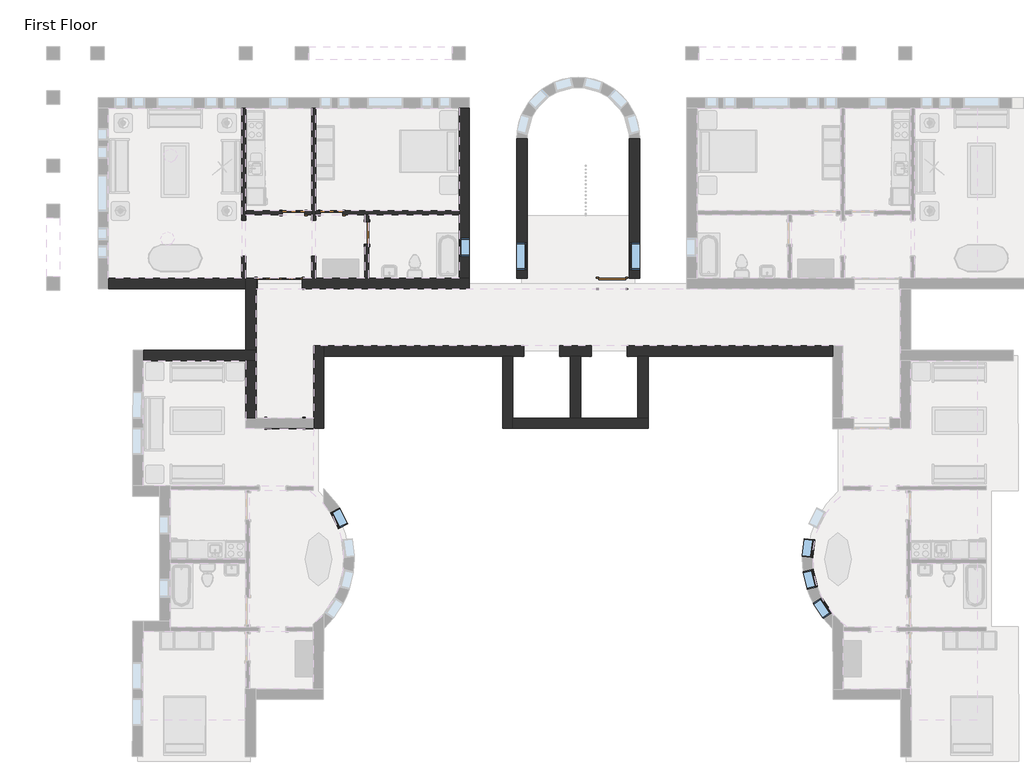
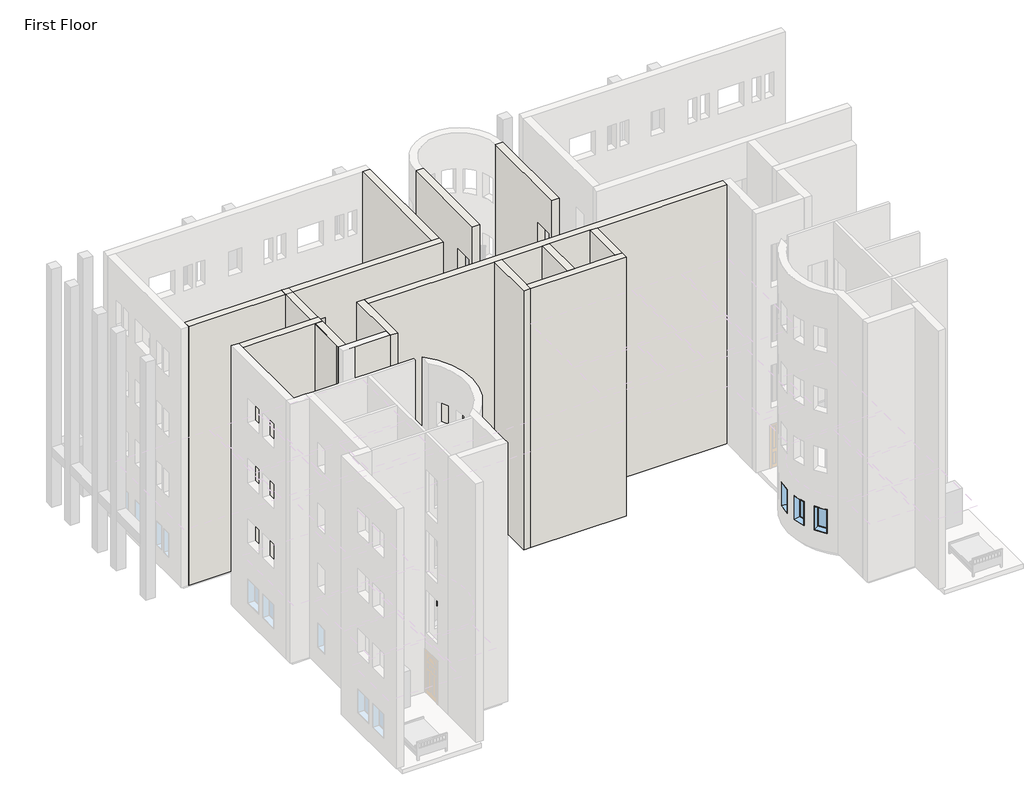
# One storey, part 11 of 23: 18 walls, 7 windows, 6 doors.
"""IFC4 building model written with IfcOpenShell, lengths in millimetres."""

from ifc_helpers import new_model, si_unit, frame, origin, origin_with_axes, place, context, project, spatial, polyline, outline, extrude, faceted_brep, transform, mapped, element, save
from components import m_bifold_4_panel_1220_x_2134mm_46e1cad3, m_bifold_4_panel_1525_x_2134mm_ac598c8b, m_single_decorative_2_0762_x_2134mm_0d0af7cb, m_single_decorative_2_0762_x_2134mm_2fe67c8e, m_single_flush_0762_x_2134mm_a28375c7, m_single_flush_0915_x_2134mm_1eac8bb1, m_fixed_0610_x_1220mm_2c28ef1d, m_fixed_0610_x_1220mm_1ea27827, m_fixed_0915_x_1220mm_bde29121

model = new_model("IFC4")

# Units and contexts
model_context = context("Model", 3, world=origin())
ifc_project = project(units=[si_unit("LENGTHUNIT", "METRE", prefix="MILLI")], contexts=[model_context])

# Site, building, storey
site = spatial("IfcSite", under=ifc_project)
building = spatial("IfcBuilding", under=site)
storey = spatial("IfcBuildingStorey", under=building, Name="First Floor", Elevation=0.0)

# Doors
placement = place(None, origin())
m_bifold_4_panel_1220_x_2134mm_shape = m_bifold_4_panel_1220_x_2134mm_46e1cad3(model_context)
element("IfcDoor", 1, ObjectType="M_Bifold-4 Panel : 1220 x 2134mm", at=placement, inside=storey, context=model_context, shape_type="MappedRepresentation", body=[
    mapped(m_bifold_4_panel_1220_x_2134mm_shape, transform((-28863.3459343, -8240.6820888, 0.0), x_axis=(-0.9999989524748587, 0.0014474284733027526, 0.0), y_axis=(-0.0014474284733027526, -0.9999989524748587, 0.0), z_axis=(0.0, 0.0, 1.0))),
])
m_bifold_4_panel_1525_x_2134mm_shape = m_bifold_4_panel_1525_x_2134mm_ac598c8b(model_context)
element("IfcDoor", 2, ObjectType="M_Bifold-4 Panel : 1525 x 2134mm", at=placement, inside=storey, context=model_context, shape_type="MappedRepresentation", body=[
    mapped(m_bifold_4_panel_1525_x_2134mm_shape, transform((-29038.0916203, -3514.8811614, 0.0), x_axis=(-1.0, 0.0, 0.0), y_axis=(0.0, -1.0, 0.0), z_axis=(0.0, 0.0, 1.0))),
])
m_single_decorative_2_0762_x_2134mm_shape = m_single_decorative_2_0762_x_2134mm_0d0af7cb(model_context)
element("IfcDoor", 3, ObjectType="M_Single-Decorative 2 : 0762 x 2134mm", at=placement, inside=storey, context=model_context, shape_type="MappedRepresentation", body=[
    mapped(m_single_decorative_2_0762_x_2134mm_shape, transform((-27285.0916203, -1138.1311614, 0.0), x_axis=(-1.0, 0.0, 0.0), y_axis=(0.0, -1.0, 0.0), z_axis=(0.0, 0.0, 1.0))),
])
m_single_decorative_2_0762_x_2134mm_2_shape = m_single_decorative_2_0762_x_2134mm_2fe67c8e(model_context)
element("IfcDoor", 4, ObjectType="M_Single-Decorative 2 : 0762 x 2134mm", at=placement, inside=storey, context=model_context, shape_type="MappedRepresentation", body=[
    mapped(m_single_decorative_2_0762_x_2134mm_2_shape, transform((-28571.8416203, -1138.1311614, 0.0), x_axis=(1.0, 0.0, 0.0), y_axis=(0.0, 1.0, 0.0), z_axis=(0.0, 0.0, 1.0))),
])
m_single_flush_0762_x_2134mm_shape = m_single_flush_0762_x_2134mm_a28375c7(model_context)
element("IfcDoor", 5, ObjectType="M_Single-Flush : 0762 x 2134mm", at=placement, inside=storey, context=model_context, shape_type="MappedRepresentation", body=[
    mapped(m_single_flush_0762_x_2134mm_shape, transform((-26094.5916203, -1815.8811614, 0.0), x_axis=(0.0, 1.0, 0.0), y_axis=(-1.0, 0.0, 0.0), z_axis=(0.0, 0.0, 1.0))),
])
m_single_flush_0915_x_2134mm_shape = m_single_flush_0915_x_2134mm_1eac8bb1(model_context)
element("IfcDoor", 6, ObjectType="M_Single-Flush : 0915 x 2134mm", at=placement, inside=storey, context=model_context, shape_type="MappedRepresentation", body=[
    mapped(m_single_flush_0915_x_2134mm_shape, transform((-17814.0916203, -3514.8811614, 0.0), x_axis=(1.0, 0.0, 0.0), y_axis=(0.0, 1.0, 0.0), z_axis=(0.0, 0.0, 1.0))),
])

# Walls
element("IfcWall", 7, ObjectType="Exterior - Brick on Mtl. Stud", at=placement, inside=storey, context=model_context, shape_type="Brep", body=[
    faceted_brep([(-27895.0916203, -5625.8811614, 0.0), (-27895.0916203, -8064.2811614, 0.0), (-27895.0916203, -8067.0833858, 0.0), (-27895.0916203, -8414.2811614, 0.0), (-27895.0916203, -8414.2811614, 13107.0), (-27895.0916203, -8067.0833858, 13107.0), (-27895.0916203, -8064.2811614, 13107.0), (-27895.0916203, -5625.8811614, 13107.0), (-27545.0916203, -5625.8811614, 0.0), (-27545.0916203, -5625.8811614, 13107.0), (-27545.0916203, -5975.8811614, 13107.0), (-27545.0916203, -8414.2811614, 13107.0), (-27545.0916203, -8414.2811614, 0.0), (-27545.0916203, -5975.8811614, 0.0), (-27545.5958262, -8414.2811614, 0.0), (-27545.5958262, -8414.2811614, 13107.0)], [[[0, 1, 2, 3, 4, 5, 6, 7]], [[8, 9, 10, 11, 12, 13]], [[3, 2, 1, 0, 8, 13, 12, 14]], [[7, 6, 5, 4, 15, 11, 10, 9]], [[4, 3, 14, 12, 11, 15]], [[0, 7, 9, 8]]]),
])
element("IfcWall", 8, ObjectType="Exterior - Brick on Mtl. Stud", at=placement, inside=storey, context=model_context, shape_type="Brep", body=[
    faceted_brep([(-29831.0916203, -8064.2811614, 0.0), (-29831.0916203, -3689.8811614, 0.0), (-29831.0916203, -3524.8811614, 0.0), (-29831.0916203, -3339.8811614, 0.0), (-29831.0916203, -3339.8811614, 13107.0), (-29831.0916203, -3689.8811614, 13107.0), (-29831.0916203, -8064.2811614, 13107.0), (-30181.0916203, -8064.2811614, 0.0), (-30181.0916203, -8064.2811614, 13107.0), (-30181.0916203, -3339.8811614, 13107.0), (-30181.0916203, -3339.8811614, 0.0), (-30181.0916203, -3524.8811614, 0.0), (-29996.0916203, -8064.2811614, 0.0), (-29996.0916203, -3339.8811614, 0.0), (-29996.0916203, -3524.8811614, 0.0)], [[[0, 1, 2, 3, 4, 5, 6]], [[7, 8, 9, 10, 11]], [[6, 5, 4, 9, 8]], [[0, 6, 8, 7, 12]], [[4, 3, 13, 10, 9]], [[12, 7, 11, 14]], [[3, 2, 14, 13]], [[14, 11, 10, 13]], [[2, 1, 0, 12, 14]]]),
])
element("IfcWall", 9, ObjectType="Exterior - Brick on Mtl. Stud", at=placement, inside=storey, context=model_context, shape_type="Brep", body=[
    faceted_brep([(-18518.0916203, -5625.8811614, 0.0), (-19584.0916203, -5625.8811614, 0.0), (-19584.0916203, -5625.8811614, 2134.0), (-20804.0916203, -5625.8811614, 2134.0), (-20804.0916203, -5625.8811614, 0.0), (-27545.0916203, -5625.8811614, 0.0), (-27545.0916203, -5625.8811614, 13107.0), (-10369.0916203, -5625.8811614, 13107.0), (-10369.0916203, -5625.8811614, 0.0), (-17298.0916203, -5625.8811614, 0.0), (-17298.0916203, -5625.8811614, 2134.0), (-18518.0916203, -5625.8811614, 2134.0), (-20804.0916203, -5625.8811614, 11278.0), (-20804.0916203, -5625.8811614, 9144.0), (-19584.0916203, -5625.8811614, 9144.0), (-19584.0916203, -5625.8811614, 11278.0), (-17298.0916203, -5625.8811614, 11278.0), (-18518.0916203, -5625.8811614, 11278.0), (-18518.0916203, -5625.8811614, 9144.0), (-17298.0916203, -5625.8811614, 9144.0), (-20804.0916203, -5625.8811614, 5182.0), (-20804.0916203, -5625.8811614, 3048.0), (-19584.0916203, -5625.8811614, 3048.0), (-19584.0916203, -5625.8811614, 5182.0), (-17298.0916203, -5625.8811614, 5182.0), (-18518.0916203, -5625.8811614, 5182.0), (-18518.0916203, -5625.8811614, 3048.0), (-17298.0916203, -5625.8811614, 3048.0), (-20804.0916203, -5625.8811614, 8230.0), (-20804.0916203, -5625.8811614, 6096.0), (-19584.0916203, -5625.8811614, 6096.0), (-19584.0916203, -5625.8811614, 8230.0), (-17298.0916203, -5625.8811614, 8230.0), (-18518.0916203, -5625.8811614, 8230.0), (-18518.0916203, -5625.8811614, 6096.0), (-17298.0916203, -5625.8811614, 6096.0), (-19584.0916203, -5975.8811614, 2134.0), (-19584.0916203, -5975.8811614, 0.0), (-19226.0916203, -5975.8811614, 0.0), (-18876.0916203, -5975.8811614, 0.0), (-18518.0916203, -5975.8811614, 0.0), (-18518.0916203, -5975.8811614, 2134.0), (-17298.0916203, -5975.8811614, 2134.0), (-17298.0916203, -5975.8811614, 0.0), (-16940.0916203, -5975.8811614, 0.0), (-16590.0916203, -5975.8811614, 0.0), (-10369.0916203, -5975.8811614, 0.0), (-10369.0916203, -5975.8811614, 13107.0), (-16590.0916203, -5975.8811614, 13107.0), (-16940.0916203, -5975.8811614, 13107.0), (-18876.0916203, -5975.8811614, 13107.0), (-19226.0916203, -5975.8811614, 13107.0), (-21162.0916203, -5975.8811614, 13107.0), (-21512.0916203, -5975.8811614, 13107.0), (-27545.0916203, -5975.8811614, 13107.0), (-27545.0916203, -5975.8811614, 0.0), (-21512.0916203, -5975.8811614, 0.0), (-21162.0916203, -5975.8811614, 0.0), (-20804.0916203, -5975.8811614, 0.0), (-20804.0916203, -5975.8811614, 2134.0), (-20804.0916203, -5975.8811614, 11278.0), (-19584.0916203, -5975.8811614, 11278.0), (-19584.0916203, -5975.8811614, 9144.0), (-20804.0916203, -5975.8811614, 9144.0), (-17298.0916203, -5975.8811614, 11278.0), (-17298.0916203, -5975.8811614, 9144.0), (-18518.0916203, -5975.8811614, 9144.0), (-18518.0916203, -5975.8811614, 11278.0), (-20804.0916203, -5975.8811614, 5182.0), (-19584.0916203, -5975.8811614, 5182.0), (-19584.0916203, -5975.8811614, 3048.0), (-20804.0916203, -5975.8811614, 3048.0), (-17298.0916203, -5975.8811614, 5182.0), (-17298.0916203, -5975.8811614, 3048.0), (-18518.0916203, -5975.8811614, 3048.0), (-18518.0916203, -5975.8811614, 5182.0), (-20804.0916203, -5975.8811614, 8230.0), (-19584.0916203, -5975.8811614, 8230.0), (-19584.0916203, -5975.8811614, 6096.0), (-20804.0916203, -5975.8811614, 6096.0), (-17298.0916203, -5975.8811614, 8230.0), (-17298.0916203, -5975.8811614, 6096.0), (-18518.0916203, -5975.8811614, 6096.0), (-18518.0916203, -5975.8811614, 8230.0)], [[[0, 1, 2, 3, 4, 5, 6, 7, 8, 9, 10, 11], [12, 13, 14, 15], [16, 17, 18, 19], [20, 21, 22, 23], [24, 25, 26, 27], [28, 29, 30, 31], [32, 33, 34, 35]], [[36, 37, 38, 39, 40, 41, 42, 43, 44, 45, 46, 47, 48, 49, 50, 51, 52, 53, 54, 55, 56, 57, 58, 59], [60, 61, 62, 63], [64, 65, 66, 67], [68, 69, 70, 71], [72, 73, 74, 75], [76, 77, 78, 79], [80, 81, 82, 83]], [[9, 8, 46, 45, 44, 43]], [[58, 57, 56, 55, 5, 4]], [[40, 39, 38, 37, 1, 0]], [[7, 6, 54, 53, 52, 51, 50, 49, 48, 47]], [[6, 5, 55, 54]], [[8, 7, 47, 46]], [[43, 42, 10, 9]], [[41, 40, 0, 11]], [[42, 41, 11, 10]], [[4, 3, 59, 58]], [[2, 1, 37, 36]], [[3, 2, 36, 59]], [[13, 12, 60, 63]], [[14, 13, 63, 62]], [[15, 14, 62, 61]], [[12, 15, 61, 60]], [[65, 64, 16, 19]], [[66, 65, 19, 18]], [[67, 66, 18, 17]], [[64, 67, 17, 16]], [[21, 20, 68, 71]], [[22, 21, 71, 70]], [[23, 22, 70, 69]], [[20, 23, 69, 68]], [[73, 72, 24, 27]], [[74, 73, 27, 26]], [[75, 74, 26, 25]], [[72, 75, 25, 24]], [[29, 28, 76, 79]], [[30, 29, 79, 78]], [[31, 30, 78, 77]], [[28, 31, 77, 76]], [[81, 80, 32, 35]], [[82, 81, 35, 34]], [[83, 82, 34, 33]], [[80, 83, 33, 32]]]),
])
element("IfcWall", 10, ObjectType="Exterior - Brick on Mtl. Stud", at=placement, inside=storey, context=model_context, shape_type="SweptSolid", body=[
    extrude(outline(polyline([(1362.1188386, 0.0), (-3339.8811614, 0.0), (-3339.8811614, 13107.0), (1362.1188386, 13107.0), (1362.1188386, 0.0)]), holes=[polyline([(-2142.3811614, 915.0), (-2142.3811614, 2135.0), (-3057.3811614, 2135.0), (-3057.3811614, 915.0), (-2142.3811614, 915.0)]), polyline([(-2142.3811614, 10059.0), (-2142.3811614, 11279.0), (-3057.3811614, 11279.0), (-3057.3811614, 10059.0), (-2142.3811614, 10059.0)]), polyline([(-2142.3811614, 3963.0), (-2142.3811614, 5183.0), (-3057.3811614, 5183.0), (-3057.3811614, 3963.0), (-2142.3811614, 3963.0)]), polyline([(-2142.3811614, 7011.0), (-2142.3811614, 8231.0), (-3057.3811614, 8231.0), (-3057.3811614, 7011.0), (-2142.3811614, 7011.0)])]), frame((-21037.0916203, 0.0, 0.0), z_axis=(1.0, 0.0, 0.0), x_axis=(0.0, 1.0, 0.0)), (0.0, 0.0, 1.0), 350.0),
])
element("IfcWall", 11, ObjectType="Exterior - Brick on Mtl. Stud", at=placement, inside=storey, context=model_context, shape_type="SweptSolid", body=[
    extrude(outline(polyline([(-3339.8811614, 0.0), (-3339.8811614, 13107.0), (1362.1188386, 13107.0), (1362.1188386, 0.0), (-3339.8811614, 0.0)]), holes=[polyline([(-3057.3811614, 915.0), (-2142.3811614, 915.0), (-2142.3811614, 2135.0), (-3057.3811614, 2135.0), (-3057.3811614, 915.0)]), polyline([(-3057.3811614, 10059.0), (-2142.3811614, 10059.0), (-2142.3811614, 11279.0), (-3057.3811614, 11279.0), (-3057.3811614, 10059.0)]), polyline([(-3057.3811614, 3963.0), (-2142.3811614, 3963.0), (-2142.3811614, 5183.0), (-3057.3811614, 5183.0), (-3057.3811614, 3963.0)]), polyline([(-3057.3811614, 7011.0), (-2142.3811614, 7011.0), (-2142.3811614, 8231.0), (-3057.3811614, 8231.0), (-3057.3811614, 7011.0)])]), frame((-17227.0916203, 0.0, 0.0), z_axis=(1.0, 0.0, 0.0), x_axis=(0.0, 1.0, 0.0)), (0.0, 0.0, 1.0), 350.0),
])
element("IfcWall", 12, ObjectType="Exterior - Brick on Mtl. Stud", at=placement, inside=storey, context=model_context, shape_type="Brep", body=[
    faceted_brep([(-21512.0916203, -5975.8811614, 0.0), (-21512.0916203, -8414.2811614, 0.0), (-21512.0916203, -8414.2811614, 13107.0), (-21512.0916203, -5975.8811614, 13107.0), (-21162.0916203, -5975.8811614, 0.0), (-21162.0916203, -5975.8811614, 13107.0), (-21162.0916203, -8064.2811614, 13107.0), (-21162.0916203, -8414.2811614, 13107.0), (-21162.0916203, -8414.2811614, 0.0), (-21162.0916203, -8064.2811614, 0.0)], [[[0, 1, 2, 3]], [[4, 5, 6, 7, 8, 9]], [[1, 0, 4, 9, 8]], [[3, 2, 7, 6, 5]], [[0, 3, 5, 4]], [[2, 1, 8, 7]]]),
])
element("IfcWall", 13, ObjectType="Exterior - Brick on Mtl. Stud", at=placement, inside=storey, context=model_context, shape_type="Brep", body=[
    faceted_brep([(-21162.0916203, -8414.2811614, 0.0), (-16590.0916203, -8414.2811614, 0.0), (-16590.0916203, -8414.2811614, 13107.0), (-21162.0916203, -8414.2811614, 13107.0), (-21162.0916203, -8064.2811614, 0.0), (-21162.0916203, -8064.2811614, 13107.0), (-19226.0916203, -8064.2811614, 13107.0), (-18876.0916203, -8064.2811614, 13107.0), (-16940.0916203, -8064.2811614, 13107.0), (-16590.0916203, -8064.2811614, 13107.0), (-16590.0916203, -8064.2811614, 0.0), (-16940.0916203, -8064.2811614, 0.0), (-18876.0916203, -8064.2811614, 0.0), (-19226.0916203, -8064.2811614, 0.0)], [[[0, 1, 2, 3]], [[4, 5, 6, 7, 8, 9, 10, 11, 12, 13]], [[1, 0, 4, 13, 12, 11, 10]], [[3, 2, 9, 8, 7, 6, 5]], [[0, 3, 5, 4]], [[2, 1, 10, 9]]]),
])
element("IfcWall", 14, ObjectType="Exterior - Brick on Mtl. Stud", at=placement, inside=storey, context=model_context, shape_type="SweptSolid", body=[
    extrude(outline(polyline([(-16590.0916203, -5975.8811614), (-16590.0916203, -8064.2811614), (-16940.0916203, -8064.2811614), (-16940.0916203, -5975.8811614), (-16590.0916203, -5975.8811614)])), origin_with_axes(), (0.0, 0.0, 1.0), 13107.0),
])
element("IfcWall", 15, ObjectType="Exterior - Brick on Mtl. Stud", at=placement, inside=storey, context=model_context, shape_type="SweptSolid", body=[
    extrude(outline(polyline([(-18876.0916203, -5975.8811614), (-18876.0916203, -8064.2811614), (-19226.0916203, -8064.2811614), (-19226.0916203, -5975.8811614), (-18876.0916203, -5975.8811614)])), origin_with_axes(), (0.0, 0.0, 1.0), 13107.0),
])
element("IfcWall", 16, ObjectType="Exterior - Brick on Mtl. Stud", at=placement, inside=storey, context=model_context, shape_type="Brep", body=[
    faceted_brep([(-22628.8416203, -3689.8811614, 13107.0), (-34820.8416203, -3689.8811614, 13107.0), (-34820.8416203, -3689.8811614, 0.0), (-29800.5916203, -3689.8811614, 0.0), (-29800.5916203, -3689.8811614, 2134.0), (-28275.5916203, -3689.8811614, 2134.0), (-28275.5916203, -3689.8811614, 0.0), (-22628.8416203, -3689.8811614, 0.0), (-29800.5916203, -3689.8811614, 9144.0), (-29800.5916203, -3689.8811614, 11278.0), (-28275.5916203, -3689.8811614, 11278.0), (-28275.5916203, -3689.8811614, 9144.0), (-29800.5916203, -3689.8811614, 3048.0), (-29800.5916203, -3689.8811614, 5182.0), (-28275.5916203, -3689.8811614, 5182.0), (-28275.5916203, -3689.8811614, 3048.0), (-29800.5916203, -3689.8811614, 6096.0), (-29800.5916203, -3689.8811614, 8230.0), (-28275.5916203, -3689.8811614, 8230.0), (-28275.5916203, -3689.8811614, 6096.0), (-34820.8416203, -3339.8811614, 13107.0), (-22978.8416203, -3339.8811614, 13107.0), (-22628.8416203, -3339.8811614, 13107.0), (-22628.8416203, -3339.8811614, 0.0), (-22978.8416203, -3339.8811614, 0.0), (-26026.8416203, -3339.8811614, 0.0), (-26162.3416203, -3339.8811614, 0.0), (-27827.3416203, -3339.8811614, 0.0), (-27962.8416203, -3339.8811614, 0.0), (-28275.5916203, -3339.8811614, 0.0), (-28275.5916203, -3339.8811614, 2134.0), (-29800.5916203, -3339.8811614, 2134.0), (-29800.5916203, -3339.8811614, 0.0), (-30181.0916203, -3339.8811614, 0.0), (-30316.5916203, -3339.8811614, 0.0), (-34820.8416203, -3339.8811614, 0.0), (-29800.5916203, -3339.8811614, 9144.0), (-28275.5916203, -3339.8811614, 9144.0), (-28275.5916203, -3339.8811614, 11278.0), (-29800.5916203, -3339.8811614, 11278.0), (-29800.5916203, -3339.8811614, 3048.0), (-28275.5916203, -3339.8811614, 3048.0), (-28275.5916203, -3339.8811614, 5182.0), (-29800.5916203, -3339.8811614, 5182.0), (-29800.5916203, -3339.8811614, 6096.0), (-28275.5916203, -3339.8811614, 6096.0), (-28275.5916203, -3339.8811614, 8230.0), (-29800.5916203, -3339.8811614, 8230.0)], [[[0, 1, 2, 3, 4, 5, 6, 7], [8, 9, 10, 11], [12, 13, 14, 15], [16, 17, 18, 19]], [[20, 21, 22, 23, 24, 25, 26, 27, 28, 29, 30, 31, 32, 33, 34, 35], [36, 37, 38, 39], [40, 41, 42, 43], [44, 45, 46, 47]], [[2, 35, 34, 33, 32, 3]], [[23, 7, 6, 29, 28, 27, 26, 25, 24]], [[1, 0, 22, 21, 20]], [[2, 1, 20, 35]], [[0, 7, 23, 22]], [[31, 4, 3, 32]], [[4, 31, 30, 5]], [[5, 30, 29, 6]], [[9, 8, 36, 39]], [[10, 9, 39, 38]], [[11, 10, 38, 37]], [[8, 11, 37, 36]], [[13, 12, 40, 43]], [[14, 13, 43, 42]], [[15, 14, 42, 41]], [[12, 15, 41, 40]], [[17, 16, 44, 47]], [[18, 17, 47, 46]], [[19, 18, 46, 45]], [[16, 19, 45, 44]]]),
])
element("IfcWall", 17, ObjectType="Exterior - Brick on Mtl. Stud", at=placement, inside=storey, context=model_context, shape_type="Brep", body=[
    faceted_brep([(-22628.8416203, -3339.8811614, 0.0), (-22628.8416203, 2406.1188386, 0.0), (-22628.8416203, 2406.1188386, 13107.0), (-22628.8416203, -3339.8811614, 13107.0), (-22628.8416203, -1989.8811614, 915.0), (-22628.8416203, -2599.8811614, 915.0), (-22628.8416203, -2599.8811614, 2135.0), (-22628.8416203, -1989.8811614, 2135.0), (-22628.8416203, -1989.8811614, 10059.0), (-22628.8416203, -2599.8811614, 10059.0), (-22628.8416203, -2599.8811614, 11279.0), (-22628.8416203, -1989.8811614, 11279.0), (-22628.8416203, -1989.8811614, 3963.0), (-22628.8416203, -2599.8811614, 3963.0), (-22628.8416203, -2599.8811614, 5183.0), (-22628.8416203, -1989.8811614, 5183.0), (-22628.8416203, -1989.8811614, 7011.0), (-22628.8416203, -2599.8811614, 7011.0), (-22628.8416203, -2599.8811614, 8231.0), (-22628.8416203, -1989.8811614, 8231.0), (-22978.8416203, -3339.8811614, 0.0), (-22978.8416203, -3339.8811614, 13107.0), (-22978.8416203, 2406.1188386, 13107.0), (-22978.8416203, 2406.1188386, 0.0), (-22978.8416203, -1070.3811614, 0.0), (-22978.8416203, -1205.8811614, 0.0), (-22978.8416203, -1989.8811614, 915.0), (-22978.8416203, -1989.8811614, 2135.0), (-22978.8416203, -2599.8811614, 2135.0), (-22978.8416203, -2599.8811614, 915.0), (-22978.8416203, -1989.8811614, 10059.0), (-22978.8416203, -1989.8811614, 11279.0), (-22978.8416203, -2599.8811614, 11279.0), (-22978.8416203, -2599.8811614, 10059.0), (-22978.8416203, -1989.8811614, 3963.0), (-22978.8416203, -1989.8811614, 5183.0), (-22978.8416203, -2599.8811614, 5183.0), (-22978.8416203, -2599.8811614, 3963.0), (-22978.8416203, -1989.8811614, 7011.0), (-22978.8416203, -1989.8811614, 8231.0), (-22978.8416203, -2599.8811614, 8231.0), (-22978.8416203, -2599.8811614, 7011.0), (-22813.8416203, -3339.8811614, 0.0), (-22813.8416203, 2406.1188386, 0.0)], [[[0, 1, 2, 3], [4, 5, 6, 7], [8, 9, 10, 11], [12, 13, 14, 15], [16, 17, 18, 19]], [[20, 21, 22, 23, 24, 25], [26, 27, 28, 29], [30, 31, 32, 33], [34, 35, 36, 37], [38, 39, 40, 41]], [[3, 2, 22, 21]], [[0, 3, 21, 20, 42]], [[2, 1, 43, 23, 22]], [[27, 26, 4, 7]], [[28, 27, 7, 6]], [[29, 28, 6, 5]], [[26, 29, 5, 4]], [[1, 0, 42, 43]], [[31, 30, 8, 11]], [[32, 31, 11, 10]], [[33, 32, 10, 9]], [[30, 33, 9, 8]], [[35, 34, 12, 15]], [[36, 35, 15, 14]], [[37, 36, 14, 13]], [[34, 37, 13, 12]], [[39, 38, 16, 19]], [[40, 39, 19, 18]], [[41, 40, 18, 17]], [[38, 41, 17, 16]], [[42, 20, 25, 24, 23, 43]]]),
])
element("IfcWall", 18, ObjectType="Exterior - Brick on Mtl. Stud", at=placement, inside=storey, context=model_context, shape_type="Brep", body=[
    faceted_brep([(-33638.2854077, -6122.7684869, 0.0), (-30178.2890322, -6127.7765894, 0.0), (-30013.289205, -6128.0154151, 0.0), (-29828.2893988, -6128.2831894, 0.0), (-29828.2893988, -6128.2831894, 13107.0), (-30178.2890322, -6127.7765894, 13107.0), (-33638.2854077, -6122.7684869, 13107.0), (-33637.7788078, -5772.7688535, 0.0), (-33637.7788078, -5772.7688535, 13107.0), (-29827.7827988, -5778.283556, 13107.0), (-29827.7827988, -5778.283556, 0.0), (-30012.782605, -5778.0157818, 0.0), (-33638.046582, -5957.7686598, 0.0), (-29828.0505731, -5963.2833622, 0.0), (-30013.0503793, -5963.015588, 0.0)], [[[0, 1, 2, 3, 4, 5, 6]], [[7, 8, 9, 10, 11]], [[6, 5, 4, 9, 8]], [[0, 6, 8, 7, 12]], [[4, 3, 13, 10, 9]], [[12, 7, 11, 14]], [[3, 2, 14, 13]], [[14, 11, 10, 13]], [[2, 1, 0, 12, 14]]]),
])
element("IfcWall", 19, ObjectType="Exterior - Brick on Mtl. Stud", at=placement, inside=storey, context=model_context, shape_type="Brep", body=[
    faceted_brep([(-30178.2890322, -6127.7765894, 0.0), (-30181.091987, -8064.2811614, 0.0), (-30181.091987, -8064.2811614, 13107.0), (-30178.2890322, -6127.7765894, 13107.0), (-29828.2893988, -6128.2831894, 0.0), (-29828.2893988, -6128.2831894, 13107.0), (-29831.0916203, -8064.2811614, 13107.0), (-29831.0916203, -8064.2811614, 0.0), (-30013.289205, -6128.0154151, 0.0), (-30016.0918141, -8064.2811614, 0.0)], [[[0, 1, 2, 3]], [[4, 5, 6, 7]], [[3, 2, 6, 5]], [[0, 3, 5, 4, 8]], [[8, 4, 7, 9]], [[2, 1, 9, 7, 6]], [[1, 0, 8, 9]]]),
])
element("IfcWall", 20, ObjectType="Exterior - Brick on Mtl. Stud", at=placement, inside=storey, context=model_context, shape_type="Brep", body=[
    faceted_brep([(-27895.0916203, -8417.0837525, 13107.0), (-29831.0916203, -8414.281528, 13107.0), (-29831.0916203, -8414.281528, 0.0), (-29473.5985953, -8414.7989741, 0.0), (-29473.5985953, -8414.7989741, 2134.0), (-28253.5998733, -8416.5648369, 2134.0), (-28253.5998733, -8416.5648369, 0.0), (-27895.0916203, -8417.0837525, 0.0), (-29473.5985953, -8414.7989741, 9144.0), (-29473.5985953, -8414.7989741, 11278.0), (-28253.5998733, -8416.5648369, 11278.0), (-28253.5998733, -8416.5648369, 9144.0), (-29473.5985953, -8414.7989741, 3048.0), (-29473.5985953, -8414.7989741, 5182.0), (-28253.5998733, -8416.5648369, 5182.0), (-28253.5998733, -8416.5648369, 3048.0), (-29473.5985953, -8414.7989741, 6096.0), (-29473.5985953, -8414.7989741, 8230.0), (-28253.5998733, -8416.5648369, 8230.0), (-28253.5998733, -8416.5648369, 6096.0), (-29831.0916203, -8064.2811614, 13107.0), (-27895.0916203, -8067.0833858, 13107.0), (-27895.0916203, -8067.0833858, 0.0), (-28253.0932733, -8066.5652035, 0.0), (-28253.0932733, -8066.5652035, 2134.0), (-29473.0919953, -8064.7993408, 2134.0), (-29473.0919953, -8064.7993408, 0.0), (-29831.0916203, -8064.2811614, 0.0), (-29473.0919953, -8064.7993408, 9144.0), (-28253.0932733, -8066.5652035, 9144.0), (-28253.0932733, -8066.5652035, 11278.0), (-29473.0919953, -8064.7993408, 11278.0), (-29473.0919953, -8064.7993408, 3048.0), (-28253.0932733, -8066.5652035, 3048.0), (-28253.0932733, -8066.5652035, 5182.0), (-29473.0919953, -8064.7993408, 5182.0), (-29473.0919953, -8064.7993408, 6096.0), (-28253.0932733, -8066.5652035, 6096.0), (-28253.0932733, -8066.5652035, 8230.0), (-29473.0919953, -8064.7993408, 8230.0), (-27895.0916203, -8414.2811614, 13107.0), (-29473.3597696, -8249.799147, 0.0), (-28253.3610476, -8251.5650097, 0.0), (-29831.0916203, -8249.2813552, 0.0), (-27895.0916203, -8252.0835796, 0.0), (-27895.0916203, -8414.2811614, 0.0)], [[[0, 1, 2, 3, 4, 5, 6, 7], [8, 9, 10, 11], [12, 13, 14, 15], [16, 17, 18, 19]], [[20, 21, 22, 23, 24, 25, 26, 27], [28, 29, 30, 31], [32, 33, 34, 35], [36, 37, 38, 39]], [[1, 0, 40, 21, 20]], [[25, 4, 3, 41, 26]], [[4, 25, 24, 5]], [[5, 24, 23, 42, 6]], [[43, 27, 26, 41]], [[22, 44, 42, 23]], [[9, 8, 28, 31]], [[10, 9, 31, 30]], [[11, 10, 30, 29]], [[8, 11, 29, 28]], [[13, 12, 32, 35]], [[14, 13, 35, 34]], [[15, 14, 34, 33]], [[12, 15, 33, 32]], [[17, 16, 36, 39]], [[18, 17, 39, 38]], [[19, 18, 38, 37]], [[16, 19, 37, 36]], [[0, 7, 45, 44, 22, 21, 40]], [[2, 1, 20, 27, 43]], [[2, 43, 41, 3]], [[44, 45, 7, 6, 42]]]),
])
element("IfcWall", 21, ObjectType="Interior - 135mm Partition (2-hr)", at=placement, inside=storey, context=model_context, shape_type="Brep", body=[
    faceted_brep([(-30316.5916203, 2406.1188386, 0.0), (-30316.5916203, -1380.8811614, 0.0), (-30316.5916203, -1380.8811614, 2134.0), (-30316.5916203, -2600.8811614, 2134.0), (-30316.5916203, -2600.8811614, 0.0), (-30316.5916203, -3339.8811614, 0.0), (-30316.5916203, -3339.8811614, 3048.0), (-30316.5916203, 2406.1188386, 3048.0), (-30181.0916203, -1380.8811614, 2134.0), (-30181.0916203, -1380.8811614, 0.0), (-30181.0916203, -1205.8811614, 0.0), (-30181.0916203, -1070.3811614, 0.0), (-30181.0916203, 2406.1188386, 0.0), (-30181.0916203, 2406.1188386, 3048.0), (-30181.0916203, -1070.3811614, 3048.0), (-30181.0916203, -1205.8811614, 3048.0), (-30181.0916203, -3339.8811614, 3048.0), (-30181.0916203, -3339.8811614, 0.0), (-30181.0916203, -2600.8811614, 0.0), (-30181.0916203, -2600.8811614, 2134.0)], [[[0, 1, 2, 3, 4, 5, 6, 7]], [[8, 9, 10, 11, 12, 13, 14, 15, 16, 17, 18, 19]], [[18, 17, 5, 4]], [[12, 11, 10, 9, 1, 0]], [[7, 6, 16, 15, 14, 13]], [[0, 7, 13, 12]], [[6, 5, 17, 16]], [[4, 3, 19, 18]], [[2, 1, 9, 8]], [[3, 2, 8, 19]]]),
])
element("IfcWall", 22, ObjectType="Interior - 135mm Partition (2-hr)", at=placement, inside=storey, context=model_context, shape_type="Brep", body=[
    faceted_brep([(-27962.8416203, -2600.8811614, 2134.0), (-27962.8416203, -2600.8811614, 0.0), (-27962.8416203, -3339.8811614, 0.0), (-27962.8416203, -3339.8811614, 3048.0), (-27962.8416203, -1205.8811614, 3048.0), (-27962.8416203, -1070.3811614, 3048.0), (-27962.8416203, 2406.1188386, 3048.0), (-27962.8416203, 2406.1188386, 0.0), (-27962.8416203, -1070.3811614, 0.0), (-27962.8416203, -1205.8811614, 0.0), (-27962.8416203, -1380.8811614, 0.0), (-27962.8416203, -1380.8811614, 2134.0), (-27827.3416203, -3339.8811614, 0.0), (-27827.3416203, -2600.8811614, 0.0), (-27827.3416203, -2600.8811614, 2134.0), (-27827.3416203, -1380.8811614, 2134.0), (-27827.3416203, -1380.8811614, 0.0), (-27827.3416203, -1205.8811614, 0.0), (-27827.3416203, -1070.3811614, 0.0), (-27827.3416203, 2406.1188386, 0.0), (-27827.3416203, 2406.1188386, 3048.0), (-27827.3416203, -1070.3811614, 3048.0), (-27827.3416203, -1205.8811614, 3048.0), (-27827.3416203, -3339.8811614, 3048.0)], [[[0, 1, 2, 3, 4, 5, 6, 7, 8, 9, 10, 11]], [[12, 13, 14, 15, 16, 17, 18, 19, 20, 21, 22, 23]], [[2, 1, 13, 12]], [[10, 9, 8, 7, 19, 18, 17, 16]], [[6, 5, 4, 3, 23, 22, 21, 20]], [[7, 6, 20, 19]], [[3, 2, 12, 23]], [[16, 15, 11, 10]], [[14, 13, 1, 0]], [[15, 14, 0, 11]]]),
])
element("IfcWall", 23, ObjectType="Interior - 135mm Partition (2-hr)", at=placement, inside=storey, context=model_context, shape_type="Brep", body=[
    faceted_brep([(-22978.8416203, -1070.3811614, 3048.0), (-22978.8416203, -1070.3811614, 0.0), (-26904.0916203, -1070.3811614, 0.0), (-26904.0916203, -1070.3811614, 2134.0), (-27666.0916203, -1070.3811614, 2134.0), (-27666.0916203, -1070.3811614, 0.0), (-27827.3416203, -1070.3811614, 0.0), (-27827.3416203, -1070.3811614, 3048.0), (-22978.8416203, -1205.8811614, 0.0), (-22978.8416203, -1205.8811614, 3048.0), (-26026.8416203, -1205.8811614, 3048.0), (-26162.3416203, -1205.8811614, 3048.0), (-27827.3416203, -1205.8811614, 3048.0), (-27827.3416203, -1205.8811614, 0.0), (-27666.0916203, -1205.8811614, 0.0), (-27666.0916203, -1205.8811614, 2134.0), (-26904.0916203, -1205.8811614, 2134.0), (-26904.0916203, -1205.8811614, 0.0), (-26162.3416203, -1205.8811614, 0.0), (-26026.8416203, -1205.8811614, 0.0)], [[[0, 1, 2, 3, 4, 5, 6, 7]], [[8, 9, 10, 11, 12, 13, 14, 15, 16, 17, 18, 19]], [[1, 8, 19, 18, 17, 2]], [[5, 14, 13, 6]], [[9, 0, 7, 12, 11, 10]], [[1, 0, 9, 8]], [[7, 6, 13, 12]], [[15, 14, 5, 4]], [[16, 15, 4, 3]], [[17, 16, 3, 2]]]),
    faceted_brep([(-30181.0916203, -1070.3811614, 0.0), (-30181.0916203, -1070.3811614, 3048.0), (-27962.8416203, -1070.3811614, 3048.0), (-27962.8416203, -1070.3811614, 0.0), (-28190.8416203, -1070.3811614, 0.0), (-28190.8416203, -1070.3811614, 2134.0), (-28952.8416203, -1070.3811614, 2134.0), (-28952.8416203, -1070.3811614, 0.0), (-30181.0916203, -1205.8811614, 3048.0), (-30181.0916203, -1205.8811614, 0.0), (-28952.8416203, -1205.8811614, 0.0), (-28952.8416203, -1205.8811614, 2134.0), (-28190.8416203, -1205.8811614, 2134.0), (-28190.8416203, -1205.8811614, 0.0), (-27962.8416203, -1205.8811614, 0.0), (-27962.8416203, -1205.8811614, 3048.0)], [[[0, 1, 2, 3, 4, 5, 6, 7]], [[8, 9, 10, 11, 12, 13, 14, 15]], [[9, 0, 7, 10]], [[13, 4, 3, 14]], [[1, 8, 15, 2]], [[1, 0, 9, 8]], [[3, 2, 15, 14]], [[5, 4, 13, 12]], [[6, 5, 12, 11]], [[7, 6, 11, 10]]]),
])
element("IfcWall", 24, ObjectType="Interior - 135mm Partition (2-hr)", at=placement, inside=storey, context=model_context, shape_type="SweptSolid", body=[
    extrude(outline(polyline([(-1205.8811614, 0.0), (-1434.8811614, 0.0), (-1434.8811614, 2134.0), (-2196.8811614, 2134.0), (-2196.8811614, 0.0), (-3339.8811614, 0.0), (-3339.8811614, 3048.0), (-1205.8811614, 3048.0), (-1205.8811614, 0.0)])), frame((-26162.3416203, 0.0, 0.0), z_axis=(1.0, 0.0, 0.0), x_axis=(0.0, 1.0, 0.0)), (0.0, 0.0, 1.0), 135.5),
])

# Windows
m_fixed_0610_x_1220mm_shape = m_fixed_0610_x_1220mm_2c28ef1d(model_context)
element("IfcWindow", 25, ObjectType="M_Fixed : 0610 x 1220mm", at=placement, inside=storey, context=model_context, shape_type="MappedRepresentation", body=[
    mapped(m_fixed_0610_x_1220mm_shape, transform((-11196.3470359, -12451.3940589, 0.0), x_axis=(-0.11817340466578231, -0.992992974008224, 0.0), y_axis=(0.992992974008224, -0.11817340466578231, 0.0), z_axis=(0.0, 0.0, 1.0))),
])
m_fixed_0610_x_1220mm_2_shape = m_fixed_0610_x_1220mm_1ea27827(model_context)
element("IfcWindow", 26, ObjectType="M_Fixed : 0610 x 1220mm", at=placement, inside=storey, context=model_context, shape_type="MappedRepresentation", body=[
    mapped(m_fixed_0610_x_1220mm_2_shape, transform((-10720.0033717, -14480.1766106, 0.0), x_axis=(-0.5477575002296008, 0.8366371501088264, 0.0), y_axis=(-0.8366371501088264, -0.5477575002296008, 0.0), z_axis=(0.0, 0.0, 1.0))),
])
element("IfcWindow", 27, ObjectType="M_Fixed : 0610 x 1220mm", at=placement, inside=storey, context=model_context, shape_type="MappedRepresentation", body=[
    mapped(m_fixed_0610_x_1220mm_2_shape, transform((-11137.0397547, -13507.7814548, 0.0), x_axis=(-0.2285769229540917, 0.9735258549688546, 0.0), y_axis=(-0.9735258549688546, -0.2285769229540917, 0.0), z_axis=(0.0, 0.0, 1.0))),
])
element("IfcWindow", 28, ObjectType="M_Fixed : 0610 x 1220mm", at=placement, inside=storey, context=model_context, shape_type="MappedRepresentation", body=[
    mapped(m_fixed_0610_x_1220mm_2_shape, transform((-22790.8416203, -2294.8811614, 0.0), x_axis=(0.0, -1.0, 0.0), y_axis=(1.0, 0.0, 0.0), z_axis=(0.0, 0.0, 1.0))),
])
element("IfcWindow", 29, ObjectType="M_Fixed : 0610 x 1220mm", at=placement, inside=storey, context=model_context, shape_type="MappedRepresentation", body=[
    mapped(m_fixed_0610_x_1220mm_2_shape, transform((-27024.99277, -11439.2287009, 0.0), x_axis=(0.4506702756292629, -0.8926904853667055, 0.0), y_axis=(0.8926904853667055, 0.4506702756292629, 0.0), z_axis=(0.0, 0.0, 1.0))),
])
m_fixed_0915_x_1220mm_shape = m_fixed_0915_x_1220mm_bde29121(model_context)
element("IfcWindow", 30, ObjectType="M_Fixed : 0915 x 1220mm", at=placement, inside=storey, context=model_context, shape_type="MappedRepresentation", body=[
    mapped(m_fixed_0915_x_1220mm_shape, transform((-20875.0916203, -2599.8811614, 0.0), x_axis=(0.0, -1.0, 0.0), y_axis=(1.0, 0.0, 0.0), z_axis=(0.0, 0.0, 1.0))),
])
element("IfcWindow", 31, ObjectType="M_Fixed : 0915 x 1220mm", at=placement, inside=storey, context=model_context, shape_type="MappedRepresentation", body=[
    mapped(m_fixed_0915_x_1220mm_shape, transform((-17039.0916203, -2599.8811614, 0.0), x_axis=(0.0, 1.0, 0.0), y_axis=(-1.0, 0.0, 0.0), z_axis=(0.0, 0.0, 1.0))),
])

save(model, "model.ifc")
